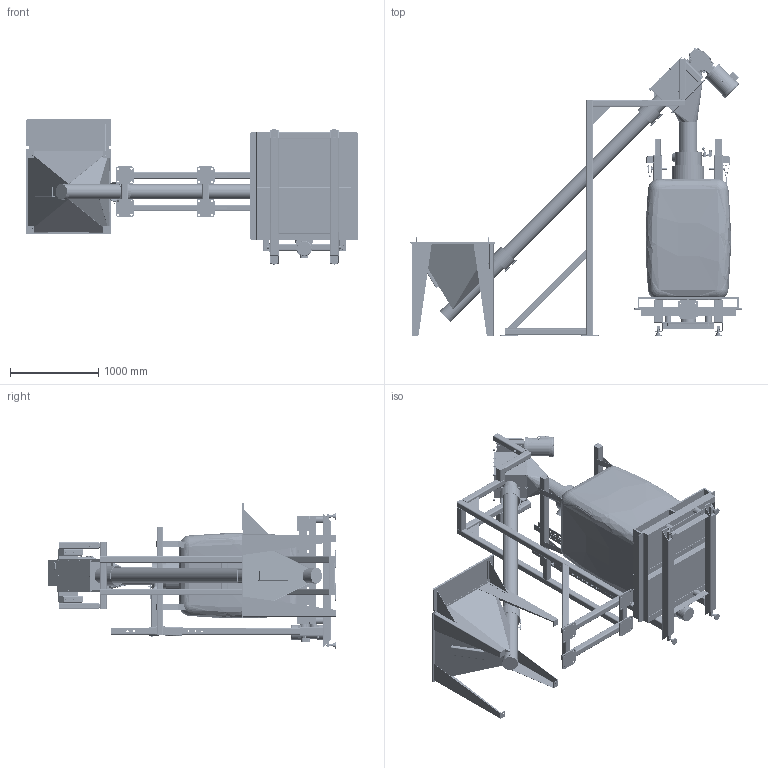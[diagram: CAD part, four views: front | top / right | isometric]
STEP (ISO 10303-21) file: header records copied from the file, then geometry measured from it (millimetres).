
FILE_DESCRIPTION(/* description */ ('FSC S60 w 2100 SS'),/* implementation_level */ '2;1');
FILE_NAME(/* name */ 'Z:\CUSTOMER ORDERS\P\Penske\Inventor\005788- FSC S60 w 2100 SS.stp',/* time_stamp */ '2021-06-24T15:30:17-05:00',/* author */ ('rwest'),/* organization */ (''),/* preprocessor_version */ 'ST-DEVELOPER v17',/* originating_system */ 'Autodesk Inventor 2019',/* authorisation */ '');
FILE_SCHEMA (('AUTOMOTIVE_DESIGN { 1 0 10303 214 3 1 1 }'));
Products named in the file (146): 005788; 003348; 6-7/8in IDx1-3/4x10 Gauge; AISC - 7in ODx10 Gauge; McMaster# 1794A43 ; 003346; 005789; 38 x 38 x 10 Gauge; 6-5/8" OD x 1/16" Thick Wall x 36" Lg; 36 x 33-1/4 x 10 Gauge; 35-15/16 x 34-11/16 x 10 Gauge; 36 x 16-13/16 x 10 Gauge; 37-13/16 x 8-5/8 x 10 Gauge; Vibration Channel; 41-3/4 x 17-3/4 x10 Gauge; 41-3/4 x 17-3/4 x10 Gauge_1; 41-3/4 x 17-3/4 x10 Gauge_2; 3x3x10 Gauge; GRATE; 001095; 001101; 001103; S60 35 Deg 8in Discharge; S60 35 Deg 8in Discharge Tube; S60 35 Deg 8in Discharge Side A; S60 35 Deg 8in Discharge Side B; 003379; 189 "; 246 "; 001100; AISC - 20-3/4x16-1/2x14 Gauge; AISC - 12-1/2x16-1/2x14 Gauge; AISC - 12-1/2x16-1/2x14 Gauge_1; 6-5/8ODx8xSch 10; AISC - 1-1/2x1-1/2x14 Gauge; S60 FSC Assembly; J bolt Assembly; 001098; 91521A150; SB-FMQ-180 correct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
Assembly tree (309 placements, depth 5):
  005788
    003348
      6-7/8in IDx1-3/4x10 Gauge
      AISC - 7in ODx10 Gauge
      McMaster# 1794A43   x2
    003346
    005789
      38 x 38 x 10 Gauge
      6-5/8" OD x 1/16" Thick Wall x 36" Lg
      36 x 33-1/4 x 10 Gauge  x2
      35-15/16 x 34-11/16 x 10 Gauge
      36 x 16-13/16 x 10 Gauge
      37-13/16 x 8-5/8 x 10 Gauge  x2
      Vibration Channel
      41-3/4 x 17-3/4 x10 Gauge  x2
      41-3/4 x 17-3/4 x10 Gauge_1
      41-3/4 x 17-3/4 x10 Gauge_2
      3x3x10 Gauge  x4
      GRATE
    001095
    001101  x2
    001103
      S60 35 Deg 8in Discharge
      S60 35 Deg 8in Discharge Tube
      S60 35 Deg 8in Discharge Side A
      S60 35 Deg 8in Discharge Side B
    003379
    189 "
    246 "
    001100
      AISC - 20-3/4x16-1/2x14 Gauge  x2
      AISC - 12-1/2x16-1/2x14 Gauge
      AISC - 12-1/2x16-1/2x14 Gauge_1
      6-5/8ODx8xSch 10
      AISC - 1-1/2x1-1/2x14 Gauge  x4
    S60 FSC Assembly
    J bolt Assembly
      001098
      91521A150  x2
    SB-FMQ-180 correct
    HD80  x2
      Body
      Outer Body
      Clip
      Handel
      ASTM F436 - 3/8
      Bolted Connection
        ANSI/ASME B18.2.1 - 1/4-20 UNC - 1.5
        ANSI B18.2.2 - 1/4 - 20
      Bolted Connection_1
        ANSI/ASME B18.2.1 - 1/4-20 UNC - 1.5
        ANSI B18.2.2 - 1/4 - 20
    GR-FMQ-842-5-LL-210
      GR842-1
      842-210-MQ-1
      GR842_F-1
    131501
    Bolted Connection_2
      ANSI B18.22.1 - 5/16 - Regular - Type B  x20
      ANSI/ASME B18.2.1 - 5/16-18 UNC - 1  x10
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Bounding box: 3761.45 x 3271.75 x 1644.65 mm (x, y, z)
Volume: 196136239.1 mm3; surface area: 63328774.3 mm2
Topology: 374 solids, 374 shells, 8667 faces, 21171 edges, 13214 vertices
Faces by surface type: plane 3688, cylinder 2319, bspline 1139, cone 918, torus 426, sphere 177
Full cylindrical faces by diameter (mm): 2.54 x1, 2.616 x2, 3.175 x5, 3.658 x4, 3.81 x4, 3.886 x4, 3.962 x4, 3.988 x2, 4.978 x4, 5.08 x9, 5.232 x2, 5.41 x7, 5.537 x4, 6.35 x56, 6.401 x20, 6.604 x4, 6.756 x4, 7.849 x2, 7.874 x4, 7.938 x25, 8.001 x2, 8.738 x40, 9.525 x17, 9.652 x4, 10.001 x10, 10.162 x24, 10.312 x4, 10.317 x1, 10.319 x59, 10.693 x4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
Entity records: 270098 total; most frequent: CARTESIAN_POINT 131267, ORIENTED_EDGE 28380, DIRECTION 27391, EDGE_CURVE 14190, AXIS2_PLACEMENT_3D 10774, VERTEX_POINT 8948, EDGE_LOOP 6498, LINE 5843
